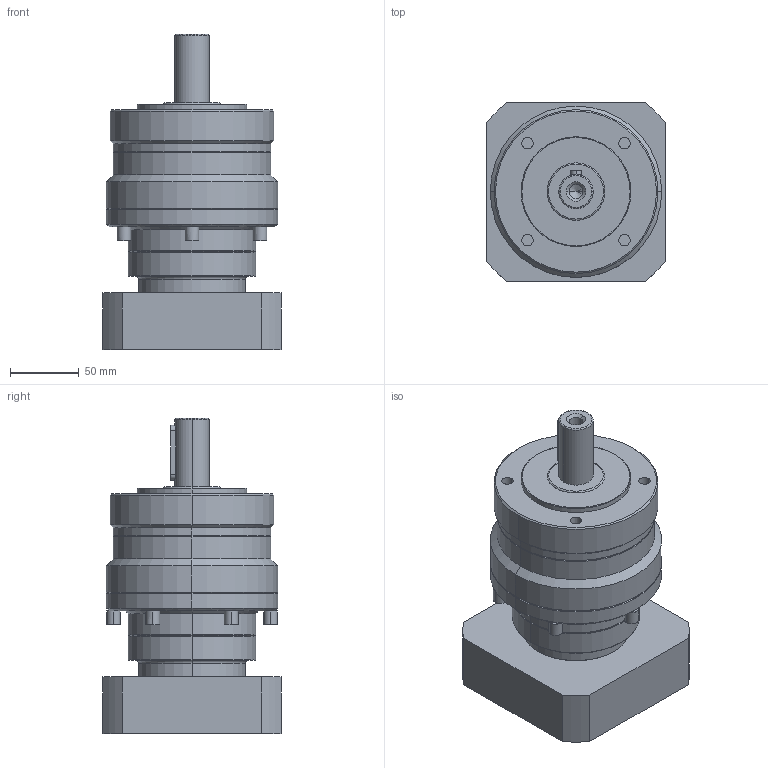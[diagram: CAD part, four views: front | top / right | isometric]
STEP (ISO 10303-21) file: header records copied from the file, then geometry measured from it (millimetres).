
FILE_DESCRIPTION (( 'STEP AP214' ), '1' );
FILE_NAME ('FE120-L2-S2-P1 24-110-145-M8.STEP', '2024-02-03T01:50:52', ( '微软用户' ), ( '微软中国' ), 'SwSTEP 2.0', 'SolidWorks 2018', '' );
FILE_SCHEMA (( 'AUTOMOTIVE_DESIGN' ));
Length unit declared in the file: millimetre
Products named in the file (1): FE120-L2-S2-P1 24-110-145-M8
Bounding box: 130 x 130 x 230 mm (x, y, z)
Volume: 1769573.2 mm3; surface area: 148629.1 mm2
Topology: 1 solids, 1 shells, 187 faces, 425 edges, 263 vertices
Faces by surface type: plane 84, cylinder 65, cone 30, torus 8
Entity records: 5347 total; most frequent: DIRECTION 985, CARTESIAN_POINT 941, ORIENTED_EDGE 846, EDGE_CURVE 423, AXIS2_PLACEMENT_3D 377, VERTEX_POINT 263, VECTOR 231, LINE 231
